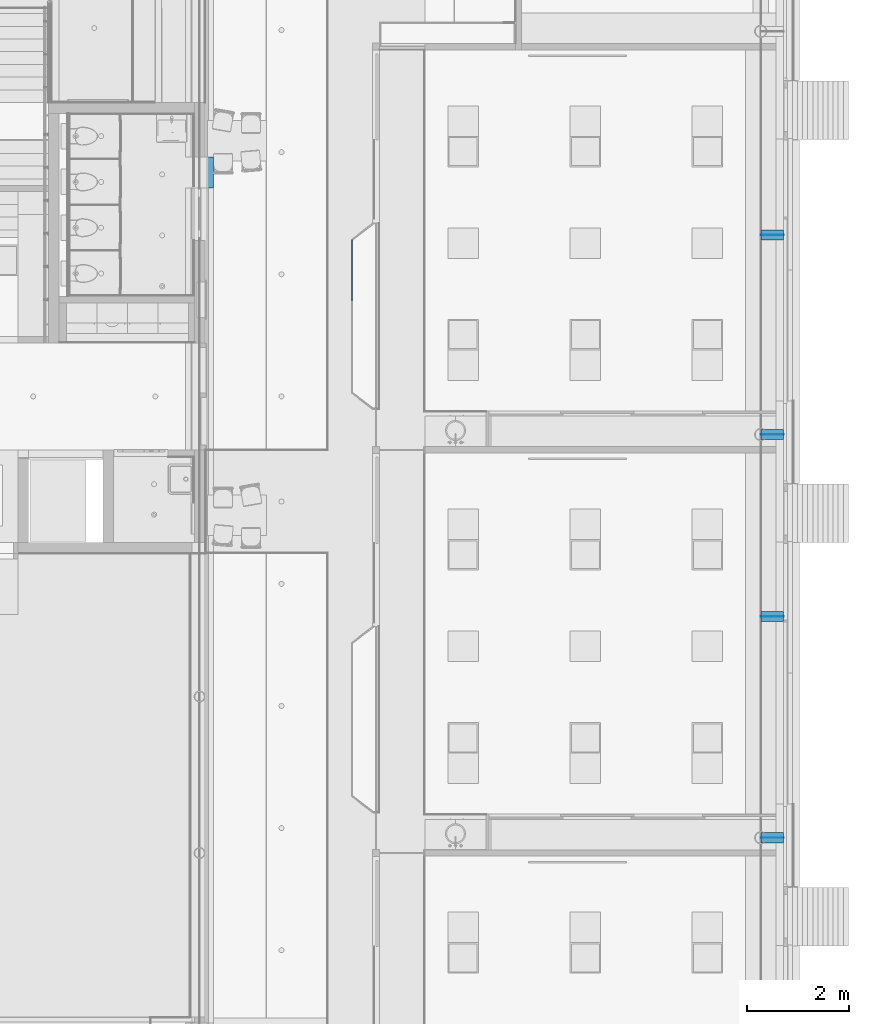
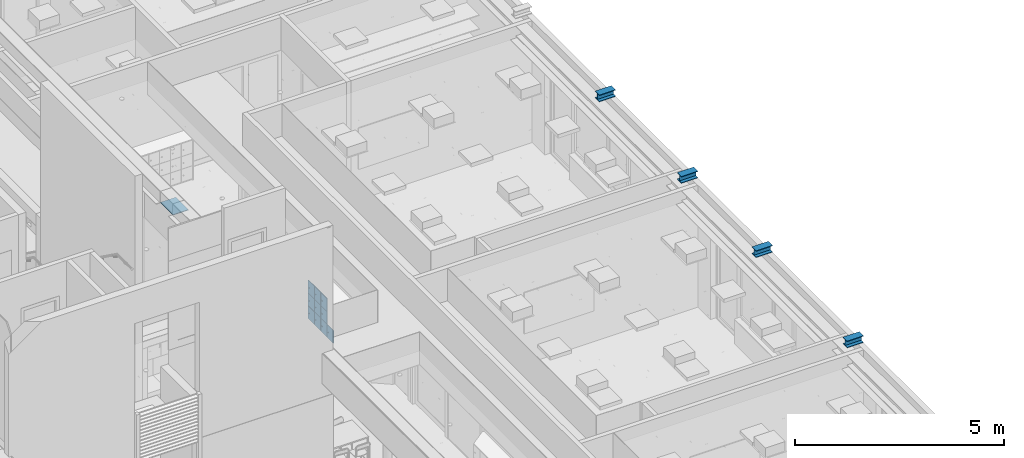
# One storey, part 142 of 347: 23 building element parts, 6 elements without a shape of their own.
"""IFC2X3 building model written with IfcOpenShell, lengths in millimetres."""

from ifc_helpers import new_model, entity, si_unit, converted_unit, derived_unit, money_unit, direction, frame, origin_with_axes, place, context, subcontext, project, spatial, faceted_brep, material, type_object, element, aggregate, save


model = new_model("IFC2X3")

# Units and contexts
model_context = context("Model", 3, precision=0.01, world=origin_with_axes(), true_north=direction((0.0, 1.0)))
plan_context = context("Plan", 3, precision=0.01, world=origin_with_axes(), true_north=direction((0.0, 1.0)))
body_context = subcontext(model_context, "Body", "Model", "MODEL_VIEW")
ifc_project = project(units=[si_unit("LENGTHUNIT", "METRE", prefix="MILLI"), si_unit("AREAUNIT", "SQUARE_METRE"), si_unit("VOLUMEUNIT", "CUBIC_METRE"), converted_unit("PLANEANGLEUNIT", "DEGREE", entity("IfcPlaneAngleMeasure", 0.0174532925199), si_unit("PLANEANGLEUNIT", "RADIAN"), dimensions=[0, 0, 0, 0, 0, 0, 0]), money_unit("EUR"), converted_unit("TIMEUNIT", "Year", entity("IfcTimeMeasure", 31556926.0), si_unit("TIMEUNIT", "SECOND"), dimensions=[0, 0, 1, 0, 0, 0, 0]), si_unit("MASSUNIT", "GRAM", prefix="KILO"), si_unit("THERMODYNAMICTEMPERATUREUNIT", "DEGREE_CELSIUS"), si_unit("LUMINOUSINTENSITYUNIT", "LUMEN"), si_unit("ENERGYUNIT", "JOULE", prefix="MEGA"), derived_unit("THERMALCONDUCTANCEUNIT", [(si_unit("POWERUNIT", "WATT"), 1), (si_unit("LENGTHUNIT", "METRE"), -1), (si_unit("THERMODYNAMICTEMPERATUREUNIT", "KELVIN"), -1)]), derived_unit("SPECIFICHEATCAPACITYUNIT", [(si_unit("ENERGYUNIT", "JOULE"), 1), (si_unit("MASSUNIT", "GRAM", prefix="KILO"), -1), (si_unit("THERMODYNAMICTEMPERATUREUNIT", "KELVIN"), -1)]), derived_unit("MASSDENSITYUNIT", [(si_unit("MASSUNIT", "GRAM", prefix="KILO"), 1), (si_unit("VOLUMEUNIT", "CUBIC_METRE"), -1)])], contexts=[model_context, plan_context])

# Site, building, storey
site_placement = place(None, origin_with_axes())
site = spatial("IfcSite", under=ifc_project, at=site_placement, Name="Site", CompositionType="ELEMENT")
building_placement = place(site_placement, origin_with_axes())
building = spatial("IfcBuilding", under=site, at=building_placement, Name="Naam gebouw", CompositionType="ELEMENT")
storey_placement = place(building_placement, origin_with_axes())
storey = spatial("IfcBuildingStorey", under=building, at=storey_placement, Name="begane grond", CompositionType="ELEMENT", Elevation=0.0)

# Beam, building element parts
beam_type_1 = type_object("IfcBeamType", Name="28 HEB200 200 x 200", PredefinedType="BEAM")
beam_1_placement = place(storey_placement, frame((55575.0, 20350.0, 3560.0), z_axis=(0.0, 0.0, 1.0), x_axis=(0.0, -1.0, 0.0)))
beam_1 = element("IfcBeam", 1, at=beam_1_placement, inside=storey, type_object=beam_type_1, Name="28_Balk-x", ObjectType="BEAM")
ifc_material_1 = material(Name="Metaal - Staal C")
building_element_part_1_placement = place(beam_1_placement, origin_with_axes())
building_element_part_1 = element("IfcBuildingElementPart", 2, at=building_element_part_1_placement, material=ifc_material_1, Name="Metaal - Staal C", context=body_context, shape_type="Brep", body=[
    faceted_brep([(-100.0, 449.999999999, 185.0), (-4.5, 449.999999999, 185.0), (-4.5, 0.0, 185.0), (-100.0, 0.0, 185.0), (-100.0, 449.999999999, 200.0), (100.0, 449.999999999, 200.0), (100.0, 449.999999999, 185.0), (4.5, 449.999999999, 185.0), (4.5, 0.0, 185.0), (100.0, 0.0, 185.0), (100.0, 0.0, 200.0), (-100.0, 0.0, 200.0)], [[[0, 1, 2, 3]], [[0, 4, 5, 6, 7, 1]], [[1, 7, 8, 2]], [[3, 2, 8, 9, 10, 11]], [[4, 0, 3, 11]], [[5, 4, 11, 10]], [[6, 5, 10, 9]], [[7, 6, 9, 8]]]),
])
building_element_part_2_placement = place(beam_1_placement, origin_with_axes())
building_element_part_2 = element("IfcBuildingElementPart", 3, at=building_element_part_2_placement, material=ifc_material_1, Name="Metaal - Staal C", context=body_context, shape_type="Brep", body=[
    faceted_brep([(-100.0, 449.999999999, 15.0), (-100.0, 449.999999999, 0.0), (-100.0, 0.0, 0.0), (-100.0, 0.0, 15.0), (-4.5, 449.999999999, 15.0), (4.5, 449.999999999, 15.0), (100.0, 449.999999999, 15.0), (100.0, 449.999999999, 0.0), (100.0, 0.0, 0.0), (100.0, 0.0, 15.0), (4.5, 0.0, 15.0), (-4.5, 0.0, 15.0)], [[[0, 1, 2, 3]], [[0, 4, 5, 6, 7, 1]], [[1, 7, 8, 2]], [[3, 2, 8, 9, 10, 11]], [[4, 0, 3, 11]], [[5, 4, 11, 10]], [[6, 5, 10, 9]], [[7, 6, 9, 8]]]),
])
building_element_part_3_placement = place(beam_1_placement, origin_with_axes())
building_element_part_3 = element("IfcBuildingElementPart", 4, at=building_element_part_3_placement, material=ifc_material_1, Name="Metaal - Staal C", context=body_context, shape_type="Brep", body=[
    faceted_brep([(-4.5, 449.999999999, 15.0), (4.5, 449.999999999, 15.0), (4.5, 0.0, 15.0), (-4.5, 0.0, 15.0), (-4.5, 449.999999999, 185.0), (4.5, 449.999999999, 185.0), (4.5, 0.0, 185.0), (-4.5, 0.0, 185.0)], [[[0, 1, 2, 3]], [[0, 4, 5, 1]], [[1, 5, 6, 2]], [[3, 2, 6, 7]], [[4, 0, 3, 7]], [[5, 4, 7, 6]]]),
])
aggregate(beam_1, [building_element_part_1, building_element_part_2, building_element_part_3])

beam_2_placement = place(storey_placement, frame((55575.0, 28275.0, 3560.0), z_axis=(0.0, 0.0, 1.0), x_axis=(0.0, -1.0, 0.0)))
beam_2 = element("IfcBeam", 5, at=beam_2_placement, inside=storey, type_object=beam_type_1, Name="28_Balk-x", ObjectType="BEAM")
building_element_part_4_placement = place(beam_2_placement, origin_with_axes())
building_element_part_4 = element("IfcBuildingElementPart", 6, at=building_element_part_4_placement, material=ifc_material_1, Name="Metaal - Staal C", context=body_context, shape_type="Brep", body=[
    faceted_brep([(-100.0, 449.999999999, 185.0), (-4.5, 449.999999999, 185.0), (-4.5, 0.0, 185.0), (-100.0, 0.0, 185.0), (-100.0, 449.999999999, 200.0), (100.0, 449.999999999, 200.0), (100.0, 449.999999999, 185.0), (4.5, 449.999999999, 185.0), (4.5, 0.0, 185.0), (100.0, 0.0, 185.0), (100.0, 0.0, 200.0), (-100.0, 0.0, 200.0)], [[[0, 1, 2, 3]], [[0, 4, 5, 6, 7, 1]], [[1, 7, 8, 2]], [[3, 2, 8, 9, 10, 11]], [[4, 0, 3, 11]], [[5, 4, 11, 10]], [[6, 5, 10, 9]], [[7, 6, 9, 8]]]),
])
building_element_part_5_placement = place(beam_2_placement, origin_with_axes())
building_element_part_5 = element("IfcBuildingElementPart", 7, at=building_element_part_5_placement, material=ifc_material_1, Name="Metaal - Staal C", context=body_context, shape_type="Brep", body=[
    faceted_brep([(-100.0, 449.999999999, 15.0), (-100.0, 449.999999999, 0.0), (-100.0, 0.0, 0.0), (-100.0, 0.0, 15.0), (-4.5, 449.999999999, 15.0), (4.5, 449.999999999, 15.0), (100.0, 449.999999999, 15.0), (100.0, 449.999999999, 0.0), (100.0, 0.0, 0.0), (100.0, 0.0, 15.0), (4.5, 0.0, 15.0), (-4.5, 0.0, 15.0)], [[[0, 1, 2, 3]], [[0, 4, 5, 6, 7, 1]], [[1, 7, 8, 2]], [[3, 2, 8, 9, 10, 11]], [[4, 0, 3, 11]], [[5, 4, 11, 10]], [[6, 5, 10, 9]], [[7, 6, 9, 8]]]),
])
building_element_part_6_placement = place(beam_2_placement, origin_with_axes())
building_element_part_6 = element("IfcBuildingElementPart", 8, at=building_element_part_6_placement, material=ifc_material_1, Name="Metaal - Staal C", context=body_context, shape_type="Brep", body=[
    faceted_brep([(-4.5, 449.999999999, 15.0), (4.5, 449.999999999, 15.0), (4.5, 0.0, 15.0), (-4.5, 0.0, 15.0), (-4.5, 449.999999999, 185.0), (4.5, 449.999999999, 185.0), (4.5, 0.0, 185.0), (-4.5, 0.0, 185.0)], [[[0, 1, 2, 3]], [[0, 4, 5, 1]], [[1, 5, 6, 2]], [[3, 2, 6, 7]], [[4, 0, 3, 7]], [[5, 4, 7, 6]]]),
])
aggregate(beam_2, [building_element_part_4, building_element_part_5, building_element_part_6])

# Beam, building element part
beam_type_2 = type_object("IfcBeamType", Name="28 SFBHE320B/S355 (pet) 425 x 340", PredefinedType="BEAM")
beam_3_placement = place(storey_placement, frame((44545.0, 33727.4998786, 3560.0), z_axis=(0.0, 0.0, 1.0), x_axis=(-1.0, 0.0, 0.0)))
beam_3 = element("IfcBeam", 9, at=beam_3_placement, inside=storey, type_object=beam_type_2, Name="28_Balk-x", ObjectType="BEAM")
building_element_part_7_placement = place(beam_3_placement, origin_with_axes())
building_element_part_7 = element("IfcBuildingElementPart", 10, at=building_element_part_7_placement, material=ifc_material_1, Name="Metaal - Staal C", context=body_context, shape_type="Brep", body=[
    faceted_brep([(-275.0, 602.499854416, 0.0), (-275.0, 602.499854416, -20.0), (-275.0, 0.0, -20.0), (-275.0, 0.0, 0.0), (-170.000001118, 602.499854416, -1.11758824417e-06), (150.0, 602.499854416, 0.0), (150.0, 602.499854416, -20.0), (150.0, 0.0, -20.0), (150.0, 0.0, 0.0), (-170.000001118, 0.0, -1.11758824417e-06)], [[[0, 1, 2, 3]], [[0, 4, 5, 6, 1]], [[1, 6, 7, 2]], [[3, 2, 7, 8, 9]], [[4, 0, 3, 9]], [[5, 4, 9, 8]], [[6, 5, 8, 7]]]),
])
aggregate(beam_3, [building_element_part_7])

# Beam, building element parts
beam_type_3 = type_object("IfcBeamType", Name="VI Garderobe 01 3012 x 1122", PredefinedType="BEAM")
beam_4_placement = place(storey_placement, frame((47531.9720234, 32105.5, 0.0), z_axis=(0.0, 0.0, 1.0), x_axis=(0.0, -1.0, 0.0)))
beam_4 = element("IfcBeam", 11, at=beam_4_placement, inside=storey, type_object=beam_type_3, Name="28_Balk-x", ObjectType="BEAM")
ifc_material_2 = material(Name="Hout - Lockers")
building_element_part_8_placement = place(beam_4_placement, origin_with_axes())
building_element_part_8 = element("IfcBuildingElementPart", 12, at=building_element_part_8_placement, material=ifc_material_2, Name="Hout - Lockers", context=body_context, shape_type="Brep", body=[
    faceted_brep([(0.0, 18.0, 1175.0), (0.0, 18.0, 802.0), (0.0, 0.0, 802.0), (0.0, 0.0, 1175.0), (303.0, 18.0, 1175.0), (303.0, 18.0, 802.0), (76.2025761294, 18.0, 975.016154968), (72.7648820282, 18.0, 985.596289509), (63.7648820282, 18.0, 992.135172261), (52.6402702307, 18.0, 992.135172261), (43.6402702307, 18.0, 985.596289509), (40.2025761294, 18.0, 975.016154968), (43.6402702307, 18.0, 964.436020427), (52.6402702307, 18.0, 957.897137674), (63.7648820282, 18.0, 957.897137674), (72.7648820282, 18.0, 964.436020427), (303.0, 0.0, 802.0), (303.0, 0.0, 1175.0), (76.2025761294, 0.0, 975.016154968), (72.7648820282, 0.0, 964.436020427), (63.7648820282, 0.0, 957.897137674), (52.6402702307, 0.0, 957.897137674), (43.6402702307, 0.0, 964.436020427), (40.2025761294, 0.0, 975.016154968), (43.6402702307, 0.0, 985.596289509), (52.6402702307, 0.0, 992.135172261), (63.7648820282, 0.0, 992.135172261), (72.7648820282, 0.0, 985.596289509)], [[[0, 1, 2, 3]], [[0, 4, 5, 1], [6, 7, 8, 9, 10, 11, 12, 13, 14, 15]], [[1, 5, 16, 2]], [[3, 2, 16, 17], [18, 19, 20, 21, 22, 23, 24, 25, 26, 27]], [[4, 0, 3, 17]], [[5, 4, 17, 16]], [[7, 6, 18, 27]], [[8, 7, 27, 26]], [[9, 8, 26, 25]], [[10, 9, 25, 24]], [[11, 10, 24, 23]], [[12, 11, 23, 22]], [[13, 12, 22, 21]], [[14, 13, 21, 20]], [[15, 14, 20, 19]], [[6, 15, 19, 18]]]),
])
building_element_part_9_placement = place(beam_4_placement, origin_with_axes())
building_element_part_9 = element("IfcBuildingElementPart", 13, at=building_element_part_9_placement, material=ifc_material_2, Name="Hout - Lockers", context=body_context, shape_type="Brep", body=[
    faceted_brep([(0.0, 18.0, 796.0), (0.0, 18.0, 432.0), (0.0, 0.0, 432.0), (0.0, 0.0, 796.0), (303.0, 18.0, 796.0), (303.0, 18.0, 432.0), (44.5601698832, 18.0, 596.032777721), (47.9978639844, 18.0, 585.45264318), (56.9978639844, 18.0, 578.913760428), (68.1224757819, 18.0, 578.913760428), (77.1224757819, 18.0, 585.45264318), (80.5601698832, 18.0, 596.032777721), (77.1224757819, 18.0, 606.612912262), (68.1224757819, 18.0, 613.151795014), (56.9978639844, 18.0, 613.151795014), (47.9978639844, 18.0, 606.612912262), (303.0, 0.0, 432.0), (303.0, 0.0, 796.0), (44.5601698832, 0.0, 596.032777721), (47.9978639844, 0.0, 606.612912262), (56.9978639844, 0.0, 613.151795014), (68.1224757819, 0.0, 613.151795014), (77.1224757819, 0.0, 606.612912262), (80.5601698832, 0.0, 596.032777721), (77.1224757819, 0.0, 585.45264318), (68.1224757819, 0.0, 578.913760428), (56.9978639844, 0.0, 578.913760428), (47.9978639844, 0.0, 585.45264318)], [[[0, 1, 2, 3]], [[0, 4, 5, 1], [6, 7, 8, 9, 10, 11, 12, 13, 14, 15]], [[1, 5, 16, 2]], [[3, 2, 16, 17], [18, 19, 20, 21, 22, 23, 24, 25, 26, 27]], [[4, 0, 3, 17]], [[5, 4, 17, 16]], [[7, 6, 18, 27]], [[8, 7, 27, 26]], [[9, 8, 26, 25]], [[10, 9, 25, 24]], [[11, 10, 24, 23]], [[12, 11, 23, 22]], [[13, 12, 22, 21]], [[14, 13, 21, 20]], [[15, 14, 20, 19]], [[6, 15, 19, 18]]]),
])
building_element_part_10_placement = place(beam_4_placement, origin_with_axes())
building_element_part_10 = element("IfcBuildingElementPart", 14, at=building_element_part_10_placement, material=ifc_material_2, Name="Hout - Lockers", context=body_context, shape_type="Brep", body=[
    faceted_brep([(0.0, 18.0, 426.0), (0.0, 18.0, 53.0), (0.0, 0.0, 53.0), (0.0, 0.0, 426.0), (303.0, 18.0, 426.0), (303.0, 18.0, 53.0), (78.0, 18.0, 226.0), (74.5623058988, 18.0, 236.580134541), (65.5623058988, 18.0, 243.119017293), (54.4376941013, 18.0, 243.119017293), (45.4376941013, 18.0, 236.580134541), (42.0, 18.0, 226.0), (45.4376941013, 18.0, 215.419865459), (54.4376941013, 18.0, 208.880982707), (65.5623058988, 18.0, 208.880982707), (74.5623058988, 18.0, 215.419865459), (303.0, 0.0, 53.0), (303.0, 0.0, 426.0), (78.0, 0.0, 226.0), (74.5623058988, 0.0, 215.419865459), (65.5623058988, 0.0, 208.880982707), (54.4376941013, 0.0, 208.880982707), (45.4376941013, 0.0, 215.419865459), (42.0, 0.0, 226.0), (45.4376941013, 0.0, 236.580134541), (54.4376941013, 0.0, 243.119017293), (65.5623058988, 0.0, 243.119017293), (74.5623058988, 0.0, 236.580134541)], [[[0, 1, 2, 3]], [[0, 4, 5, 1], [6, 7, 8, 9, 10, 11, 12, 13, 14, 15]], [[1, 5, 16, 2]], [[3, 2, 16, 17], [18, 19, 20, 21, 22, 23, 24, 25, 26, 27]], [[4, 0, 3, 17]], [[5, 4, 17, 16]], [[7, 6, 18, 27]], [[8, 7, 27, 26]], [[9, 8, 26, 25]], [[10, 9, 25, 24]], [[11, 10, 24, 23]], [[12, 11, 23, 22]], [[13, 12, 22, 21]], [[14, 13, 21, 20]], [[15, 14, 20, 19]], [[6, 15, 19, 18]]]),
])
building_element_part_11_placement = place(beam_4_placement, origin_with_axes())
building_element_part_11 = element("IfcBuildingElementPart", 15, at=building_element_part_11_placement, material=ifc_material_2, Name="Hout - Lockers", context=body_context, shape_type="Brep", body=[
    faceted_brep([(309.0, 18.0, 1175.0), (309.0, 18.0, 802.0), (309.0, 0.0, 802.0), (309.0, 0.0, 1175.0), (603.0, 18.0, 1175.0), (603.0, 18.0, 802.0), (387.0, 18.0, 975.0), (383.562305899, 18.0, 985.580134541), (374.562305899, 18.0, 992.119017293), (363.437694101, 18.0, 992.119017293), (354.437694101, 18.0, 985.580134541), (351.0, 18.0, 975.0), (354.437694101, 18.0, 964.419865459), (363.437694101, 18.0, 957.880982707), (374.562305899, 18.0, 957.880982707), (383.562305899, 18.0, 964.419865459), (603.0, 0.0, 802.0), (603.0, 0.0, 1175.0), (387.0, 0.0, 975.0), (383.562305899, 0.0, 964.419865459), (374.562305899, 0.0, 957.880982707), (363.437694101, 0.0, 957.880982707), (354.437694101, 0.0, 964.419865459), (351.0, 0.0, 975.0), (354.437694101, 0.0, 985.580134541), (363.437694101, 0.0, 992.119017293), (374.562305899, 0.0, 992.119017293), (383.562305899, 0.0, 985.580134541)], [[[0, 1, 2, 3]], [[0, 4, 5, 1], [6, 7, 8, 9, 10, 11, 12, 13, 14, 15]], [[1, 5, 16, 2]], [[3, 2, 16, 17], [18, 19, 20, 21, 22, 23, 24, 25, 26, 27]], [[4, 0, 3, 17]], [[5, 4, 17, 16]], [[7, 6, 18, 27]], [[8, 7, 27, 26]], [[9, 8, 26, 25]], [[10, 9, 25, 24]], [[11, 10, 24, 23]], [[12, 11, 23, 22]], [[13, 12, 22, 21]], [[14, 13, 21, 20]], [[15, 14, 20, 19]], [[6, 15, 19, 18]]]),
])
building_element_part_12_placement = place(beam_4_placement, origin_with_axes())
building_element_part_12 = element("IfcBuildingElementPart", 16, at=building_element_part_12_placement, material=ifc_material_2, Name="Hout - Lockers", context=body_context, shape_type="Brep", body=[
    faceted_brep([(309.0, 18.0, 796.0), (309.0, 18.0, 432.0), (309.0, 0.0, 432.0), (309.0, 0.0, 796.0), (603.0, 18.0, 796.0), (603.0, 18.0, 432.0), (387.0, 18.0, 596.0), (383.562305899, 18.0, 606.580134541), (374.562305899, 18.0, 613.119017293), (363.437694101, 18.0, 613.119017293), (354.437694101, 18.0, 606.580134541), (351.0, 18.0, 596.0), (354.437694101, 18.0, 585.419865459), (363.437694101, 18.0, 578.880982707), (374.562305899, 18.0, 578.880982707), (383.562305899, 18.0, 585.419865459), (603.0, 0.0, 432.0), (603.0, 0.0, 796.0), (387.0, 0.0, 596.0), (383.562305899, 0.0, 585.419865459), (374.562305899, 0.0, 578.880982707), (363.437694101, 0.0, 578.880982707), (354.437694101, 0.0, 585.419865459), (351.0, 0.0, 596.0), (354.437694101, 0.0, 606.580134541), (363.437694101, 0.0, 613.119017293), (374.562305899, 0.0, 613.119017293), (383.562305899, 0.0, 606.580134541)], [[[0, 1, 2, 3]], [[0, 4, 5, 1], [6, 7, 8, 9, 10, 11, 12, 13, 14, 15]], [[1, 5, 16, 2]], [[3, 2, 16, 17], [18, 19, 20, 21, 22, 23, 24, 25, 26, 27]], [[4, 0, 3, 17]], [[5, 4, 17, 16]], [[7, 6, 18, 27]], [[8, 7, 27, 26]], [[9, 8, 26, 25]], [[10, 9, 25, 24]], [[11, 10, 24, 23]], [[12, 11, 23, 22]], [[13, 12, 22, 21]], [[14, 13, 21, 20]], [[15, 14, 20, 19]], [[6, 15, 19, 18]]]),
])
building_element_part_13_placement = place(beam_4_placement, origin_with_axes())
building_element_part_13 = element("IfcBuildingElementPart", 17, at=building_element_part_13_placement, material=ifc_material_2, Name="Hout - Lockers", context=body_context, shape_type="Brep", body=[
    faceted_brep([(309.0, 18.0, 426.0), (309.0, 18.0, 53.0), (309.0, 0.0, 53.0), (309.0, 0.0, 426.0), (603.0, 18.0, 426.0), (603.0, 18.0, 53.0), (387.0, 18.0, 226.0), (383.562305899, 18.0, 236.580134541), (374.562305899, 18.0, 243.119017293), (363.437694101, 18.0, 243.119017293), (354.437694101, 18.0, 236.580134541), (351.0, 18.0, 226.0), (354.437694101, 18.0, 215.419865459), (363.437694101, 18.0, 208.880982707), (374.562305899, 18.0, 208.880982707), (383.562305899, 18.0, 215.419865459), (603.0, 0.0, 53.0), (603.0, 0.0, 426.0), (387.0, 0.0, 226.0), (383.562305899, 0.0, 215.419865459), (374.562305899, 0.0, 208.880982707), (363.437694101, 0.0, 208.880982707), (354.437694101, 0.0, 215.419865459), (351.0, 0.0, 226.0), (354.437694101, 0.0, 236.580134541), (363.437694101, 0.0, 243.119017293), (374.562305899, 0.0, 243.119017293), (383.562305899, 0.0, 236.580134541)], [[[0, 1, 2, 3]], [[0, 4, 5, 1], [6, 7, 8, 9, 10, 11, 12, 13, 14, 15]], [[1, 5, 16, 2]], [[3, 2, 16, 17], [18, 19, 20, 21, 22, 23, 24, 25, 26, 27]], [[4, 0, 3, 17]], [[5, 4, 17, 16]], [[7, 6, 18, 27]], [[8, 7, 27, 26]], [[9, 8, 26, 25]], [[10, 9, 25, 24]], [[11, 10, 24, 23]], [[12, 11, 23, 22]], [[13, 12, 22, 21]], [[14, 13, 21, 20]], [[15, 14, 20, 19]], [[6, 15, 19, 18]]]),
])
building_element_part_14_placement = place(beam_4_placement, origin_with_axes())
building_element_part_14 = element("IfcBuildingElementPart", 18, at=building_element_part_14_placement, material=ifc_material_2, Name="Hout - Lockers", context=body_context, shape_type="Brep", body=[
    faceted_brep([(909.0, 18.0, 426.0), (909.0, 18.0, 53.0), (909.0, 0.0, 53.0), (909.0, 0.0, 426.0), (1203.0, 18.0, 426.0), (1203.0, 18.0, 53.0), (987.0, 18.0, 226.0), (983.562305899, 18.0, 236.580134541), (974.562305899, 18.0, 243.119017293), (963.437694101, 18.0, 243.119017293), (954.437694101, 18.0, 236.580134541), (951.0, 18.0, 226.0), (954.437694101, 18.0, 215.419865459), (963.437694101, 18.0, 208.880982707), (974.562305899, 18.0, 208.880982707), (983.562305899, 18.0, 215.419865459), (1203.0, 0.0, 53.0), (1203.0, 0.0, 426.0), (987.0, 0.0, 226.0), (983.562305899, 0.0, 215.419865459), (974.562305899, 0.0, 208.880982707), (963.437694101, 0.0, 208.880982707), (954.437694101, 0.0, 215.419865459), (951.0, 0.0, 226.0), (954.437694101, 0.0, 236.580134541), (963.437694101, 0.0, 243.119017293), (974.562305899, 0.0, 243.119017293), (983.562305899, 0.0, 236.580134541)], [[[0, 1, 2, 3]], [[0, 4, 5, 1], [6, 7, 8, 9, 10, 11, 12, 13, 14, 15]], [[1, 5, 16, 2]], [[3, 2, 16, 17], [18, 19, 20, 21, 22, 23, 24, 25, 26, 27]], [[4, 0, 3, 17]], [[5, 4, 17, 16]], [[7, 6, 18, 27]], [[8, 7, 27, 26]], [[9, 8, 26, 25]], [[10, 9, 25, 24]], [[11, 10, 24, 23]], [[12, 11, 23, 22]], [[13, 12, 22, 21]], [[14, 13, 21, 20]], [[15, 14, 20, 19]], [[6, 15, 19, 18]]]),
])
building_element_part_15_placement = place(beam_4_placement, origin_with_axes())
building_element_part_15 = element("IfcBuildingElementPart", 19, at=building_element_part_15_placement, material=ifc_material_2, Name="Hout - Lockers", context=body_context, shape_type="Brep", body=[
    faceted_brep([(609.0, 18.0, 1175.0), (609.0, 18.0, 802.0), (609.0, 0.0, 802.0), (609.0, 0.0, 1175.0), (903.0, 18.0, 1175.0), (903.0, 18.0, 802.0), (687.0, 18.0, 975.0), (683.562305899, 18.0, 985.580134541), (674.562305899, 18.0, 992.119017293), (663.437694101, 18.0, 992.119017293), (654.437694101, 18.0, 985.580134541), (651.0, 18.0, 975.0), (654.437694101, 18.0, 964.419865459), (663.437694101, 18.0, 957.880982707), (674.562305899, 18.0, 957.880982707), (683.562305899, 18.0, 964.419865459), (903.0, 0.0, 802.0), (903.0, 0.0, 1175.0), (687.0, 0.0, 975.0), (683.562305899, 0.0, 964.419865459), (674.562305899, 0.0, 957.880982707), (663.437694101, 0.0, 957.880982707), (654.437694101, 0.0, 964.419865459), (651.0, 0.0, 975.0), (654.437694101, 0.0, 985.580134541), (663.437694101, 0.0, 992.119017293), (674.562305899, 0.0, 992.119017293), (683.562305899, 0.0, 985.580134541)], [[[0, 1, 2, 3]], [[0, 4, 5, 1], [6, 7, 8, 9, 10, 11, 12, 13, 14, 15]], [[1, 5, 16, 2]], [[3, 2, 16, 17], [18, 19, 20, 21, 22, 23, 24, 25, 26, 27]], [[4, 0, 3, 17]], [[5, 4, 17, 16]], [[7, 6, 18, 27]], [[8, 7, 27, 26]], [[9, 8, 26, 25]], [[10, 9, 25, 24]], [[11, 10, 24, 23]], [[12, 11, 23, 22]], [[13, 12, 22, 21]], [[14, 13, 21, 20]], [[15, 14, 20, 19]], [[6, 15, 19, 18]]]),
])
building_element_part_16_placement = place(beam_4_placement, origin_with_axes())
building_element_part_16 = element("IfcBuildingElementPart", 20, at=building_element_part_16_placement, material=ifc_material_2, Name="Hout - Lockers", context=body_context, shape_type="Brep", body=[
    faceted_brep([(609.0, 18.0, 796.0), (609.0, 18.0, 432.0), (609.0, 0.0, 432.0), (609.0, 0.0, 796.0), (903.0, 18.0, 796.0), (903.0, 18.0, 432.0), (687.0, 18.0, 596.0), (683.562305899, 18.0, 606.580134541), (674.562305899, 18.0, 613.119017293), (663.437694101, 18.0, 613.119017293), (654.437694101, 18.0, 606.580134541), (651.0, 18.0, 596.0), (654.437694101, 18.0, 585.419865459), (663.437694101, 18.0, 578.880982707), (674.562305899, 18.0, 578.880982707), (683.562305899, 18.0, 585.419865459), (903.0, 0.0, 432.0), (903.0, 0.0, 796.0), (687.0, 0.0, 596.0), (683.562305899, 0.0, 585.419865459), (674.562305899, 0.0, 578.880982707), (663.437694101, 0.0, 578.880982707), (654.437694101, 0.0, 585.419865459), (651.0, 0.0, 596.0), (654.437694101, 0.0, 606.580134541), (663.437694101, 0.0, 613.119017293), (674.562305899, 0.0, 613.119017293), (683.562305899, 0.0, 606.580134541)], [[[0, 1, 2, 3]], [[0, 4, 5, 1], [6, 7, 8, 9, 10, 11, 12, 13, 14, 15]], [[1, 5, 16, 2]], [[3, 2, 16, 17], [18, 19, 20, 21, 22, 23, 24, 25, 26, 27]], [[4, 0, 3, 17]], [[5, 4, 17, 16]], [[7, 6, 18, 27]], [[8, 7, 27, 26]], [[9, 8, 26, 25]], [[10, 9, 25, 24]], [[11, 10, 24, 23]], [[12, 11, 23, 22]], [[13, 12, 22, 21]], [[14, 13, 21, 20]], [[15, 14, 20, 19]], [[6, 15, 19, 18]]]),
])
building_element_part_17_placement = place(beam_4_placement, origin_with_axes())
building_element_part_17 = element("IfcBuildingElementPart", 21, at=building_element_part_17_placement, material=ifc_material_2, Name="Hout - Lockers", context=body_context, shape_type="Brep", body=[
    faceted_brep([(609.0, 18.0, 426.0), (609.0, 18.0, 53.0), (609.0, 0.0, 53.0), (609.0, 0.0, 426.0), (903.0, 18.0, 426.0), (903.0, 18.0, 53.0), (687.0, 18.0, 226.0), (683.562305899, 18.0, 236.580134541), (674.562305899, 18.0, 243.119017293), (663.437694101, 18.0, 243.119017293), (654.437694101, 18.0, 236.580134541), (651.0, 18.0, 226.0), (654.437694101, 18.0, 215.419865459), (663.437694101, 18.0, 208.880982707), (674.562305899, 18.0, 208.880982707), (683.562305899, 18.0, 215.419865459), (903.0, 0.0, 53.0), (903.0, 0.0, 426.0), (687.0, 0.0, 226.0), (683.562305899, 0.0, 215.419865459), (674.562305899, 0.0, 208.880982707), (663.437694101, 0.0, 208.880982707), (654.437694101, 0.0, 215.419865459), (651.0, 0.0, 226.0), (654.437694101, 0.0, 236.580134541), (663.437694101, 0.0, 243.119017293), (674.562305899, 0.0, 243.119017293), (683.562305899, 0.0, 236.580134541)], [[[0, 1, 2, 3]], [[0, 4, 5, 1], [6, 7, 8, 9, 10, 11, 12, 13, 14, 15]], [[1, 5, 16, 2]], [[3, 2, 16, 17], [18, 19, 20, 21, 22, 23, 24, 25, 26, 27]], [[4, 0, 3, 17]], [[5, 4, 17, 16]], [[7, 6, 18, 27]], [[8, 7, 27, 26]], [[9, 8, 26, 25]], [[10, 9, 25, 24]], [[11, 10, 24, 23]], [[12, 11, 23, 22]], [[13, 12, 22, 21]], [[14, 13, 21, 20]], [[15, 14, 20, 19]], [[6, 15, 19, 18]]]),
])
aggregate(beam_4, [building_element_part_8, building_element_part_9, building_element_part_10, building_element_part_11, building_element_part_12, building_element_part_13, building_element_part_14, building_element_part_15, building_element_part_16, building_element_part_17])

beam_5_placement = place(storey_placement, frame((55575.0, 32200.0, 3560.0), z_axis=(0.0, 0.0, 1.0), x_axis=(0.0, -1.0, 0.0)))
beam_5 = element("IfcBeam", 22, at=beam_5_placement, inside=storey, type_object=beam_type_1, Name="28_Balk-x", ObjectType="BEAM")
building_element_part_18_placement = place(beam_5_placement, origin_with_axes())
building_element_part_18 = element("IfcBuildingElementPart", 23, at=building_element_part_18_placement, material=ifc_material_1, Name="Metaal - Staal C", context=body_context, shape_type="Brep", body=[
    faceted_brep([(-100.0, 449.999999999, 185.0), (-4.5, 449.999999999, 185.0), (-4.5, 0.0, 185.0), (-100.0, 0.0, 185.0), (-100.0, 449.999999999, 200.0), (100.0, 449.999999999, 200.0), (100.0, 449.999999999, 185.0), (4.5, 449.999999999, 185.0), (4.5, 0.0, 185.0), (100.0, 0.0, 185.0), (100.0, 0.0, 200.0), (-100.0, 0.0, 200.0)], [[[0, 1, 2, 3]], [[0, 4, 5, 6, 7, 1]], [[1, 7, 8, 2]], [[3, 2, 8, 9, 10, 11]], [[4, 0, 3, 11]], [[5, 4, 11, 10]], [[6, 5, 10, 9]], [[7, 6, 9, 8]]]),
])
building_element_part_19_placement = place(beam_5_placement, origin_with_axes())
building_element_part_19 = element("IfcBuildingElementPart", 24, at=building_element_part_19_placement, material=ifc_material_1, Name="Metaal - Staal C", context=body_context, shape_type="Brep", body=[
    faceted_brep([(-100.0, 449.999999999, 15.0), (-100.0, 449.999999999, 0.0), (-100.0, 0.0, 0.0), (-100.0, 0.0, 15.0), (-4.5, 449.999999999, 15.0), (4.5, 449.999999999, 15.0), (100.0, 449.999999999, 15.0), (100.0, 449.999999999, 0.0), (100.0, 0.0, 0.0), (100.0, 0.0, 15.0), (4.5, 0.0, 15.0), (-4.5, 0.0, 15.0)], [[[0, 1, 2, 3]], [[0, 4, 5, 6, 7, 1]], [[1, 7, 8, 2]], [[3, 2, 8, 9, 10, 11]], [[4, 0, 3, 11]], [[5, 4, 11, 10]], [[6, 5, 10, 9]], [[7, 6, 9, 8]]]),
])
building_element_part_20_placement = place(beam_5_placement, origin_with_axes())
building_element_part_20 = element("IfcBuildingElementPart", 25, at=building_element_part_20_placement, material=ifc_material_1, Name="Metaal - Staal C", context=body_context, shape_type="Brep", body=[
    faceted_brep([(-4.5, 449.999999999, 15.0), (4.5, 449.999999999, 15.0), (4.5, 0.0, 15.0), (-4.5, 0.0, 15.0), (-4.5, 449.999999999, 185.0), (4.5, 449.999999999, 185.0), (4.5, 0.0, 185.0), (-4.5, 0.0, 185.0)], [[[0, 1, 2, 3]], [[0, 4, 5, 1]], [[1, 5, 6, 2]], [[3, 2, 6, 7]], [[4, 0, 3, 7]], [[5, 4, 7, 6]]]),
])
aggregate(beam_5, [building_element_part_18, building_element_part_19, building_element_part_20])

beam_6_placement = place(storey_placement, frame((55575.0, 24700.0, 3560.0), z_axis=(0.0, 0.0, 1.0), x_axis=(0.0, -1.0, 0.0)))
beam_6 = element("IfcBeam", 26, at=beam_6_placement, inside=storey, type_object=beam_type_1, Name="28_Balk-x", ObjectType="BEAM")
building_element_part_21_placement = place(beam_6_placement, origin_with_axes())
building_element_part_21 = element("IfcBuildingElementPart", 27, at=building_element_part_21_placement, material=ifc_material_1, Name="Metaal - Staal C", context=body_context, shape_type="Brep", body=[
    faceted_brep([(-100.0, 449.999999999, 185.0), (-4.5, 449.999999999, 185.0), (-4.5, 0.0, 185.0), (-100.0, 0.0, 185.0), (-100.0, 449.999999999, 200.0), (100.0, 449.999999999, 200.0), (100.0, 449.999999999, 185.0), (4.5, 449.999999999, 185.0), (4.5, 0.0, 185.0), (100.0, 0.0, 185.0), (100.0, 0.0, 200.0), (-100.0, 0.0, 200.0)], [[[0, 1, 2, 3]], [[0, 4, 5, 6, 7, 1]], [[1, 7, 8, 2]], [[3, 2, 8, 9, 10, 11]], [[4, 0, 3, 11]], [[5, 4, 11, 10]], [[6, 5, 10, 9]], [[7, 6, 9, 8]]]),
])
building_element_part_22_placement = place(beam_6_placement, origin_with_axes())
building_element_part_22 = element("IfcBuildingElementPart", 28, at=building_element_part_22_placement, material=ifc_material_1, Name="Metaal - Staal C", context=body_context, shape_type="Brep", body=[
    faceted_brep([(-100.0, 449.999999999, 15.0), (-100.0, 449.999999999, 0.0), (-100.0, 0.0, 0.0), (-100.0, 0.0, 15.0), (-4.5, 449.999999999, 15.0), (4.5, 449.999999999, 15.0), (100.0, 449.999999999, 15.0), (100.0, 449.999999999, 0.0), (100.0, 0.0, 0.0), (100.0, 0.0, 15.0), (4.5, 0.0, 15.0), (-4.5, 0.0, 15.0)], [[[0, 1, 2, 3]], [[0, 4, 5, 6, 7, 1]], [[1, 7, 8, 2]], [[3, 2, 8, 9, 10, 11]], [[4, 0, 3, 11]], [[5, 4, 11, 10]], [[6, 5, 10, 9]], [[7, 6, 9, 8]]]),
])
building_element_part_23_placement = place(beam_6_placement, origin_with_axes())
building_element_part_23 = element("IfcBuildingElementPart", 29, at=building_element_part_23_placement, material=ifc_material_1, Name="Metaal - Staal C", context=body_context, shape_type="Brep", body=[
    faceted_brep([(-4.5, 449.999999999, 15.0), (4.5, 449.999999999, 15.0), (4.5, 0.0, 15.0), (-4.5, 0.0, 15.0), (-4.5, 449.999999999, 185.0), (4.5, 449.999999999, 185.0), (4.5, 0.0, 185.0), (-4.5, 0.0, 185.0)], [[[0, 1, 2, 3]], [[0, 4, 5, 1]], [[1, 5, 6, 2]], [[3, 2, 6, 7]], [[4, 0, 3, 7]], [[5, 4, 7, 6]]]),
])
aggregate(beam_6, [building_element_part_21, building_element_part_22, building_element_part_23])

save(model, "model.ifc")
